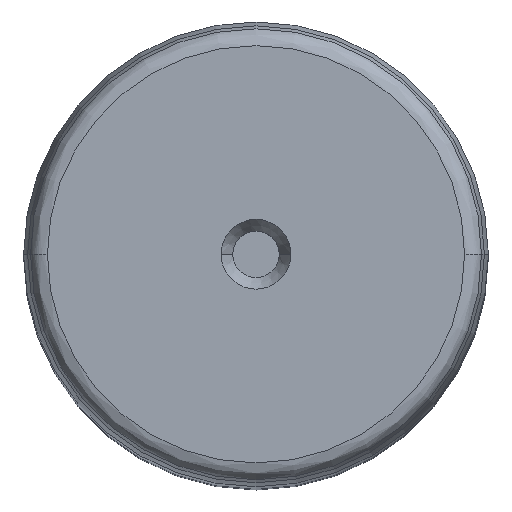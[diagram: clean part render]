
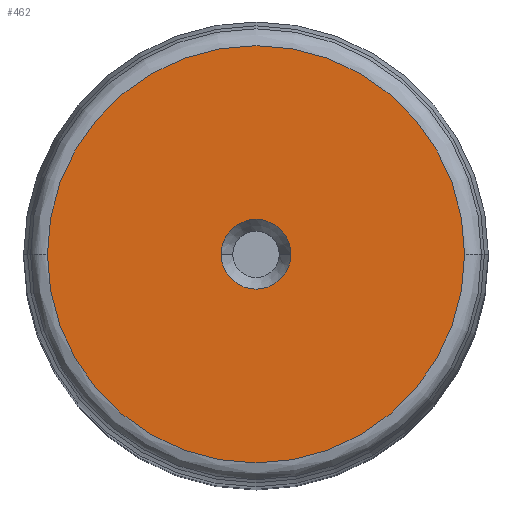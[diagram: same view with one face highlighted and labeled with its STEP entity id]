
A CAD part, top view. The second image highlights one B-rep face of the part: STEP entity #462.
In plain terms, the highlighted planar face has unit normal (0, 0, 1).
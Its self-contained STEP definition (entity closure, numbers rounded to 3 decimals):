
#97=VERTEX_POINT(' ',#98);
#98=CARTESIAN_POINT('',(-9.,0.,500.));
#99=VERTEX_POINT(' ',#100);
#100=CARTESIAN_POINT('',(9.,0.,500.));
#101=VERTEX_POINT(' ',#102);
#102=CARTESIAN_POINT('',(-53.868,0.,500.));
#103=VERTEX_POINT(' ',#104);
#104=CARTESIAN_POINT('',(53.868,0.,500.));
#180=CIRCLE('',#181,9.);
#181=AXIS2_PLACEMENT_3D('',#182,#183,#184);
#182=CARTESIAN_POINT('',(0.,0.,500.));
#183=DIRECTION('',(0.,0.,-1.));
#184=DIRECTION('',(0.,1.,0.));
#185=EDGE_CURVE(' ',#99,#97,#180,.T.);
#191=CIRCLE('',#192,9.);
#192=AXIS2_PLACEMENT_3D('',#193,#194,#195);
#193=CARTESIAN_POINT('',(0.,0.,500.));
#194=DIRECTION('',(0.,0.,-1.));
#195=DIRECTION('',(0.,-1.,0.));
#196=EDGE_CURVE(' ',#97,#99,#191,.T.);
#197=CIRCLE('',#198,53.868);
#198=AXIS2_PLACEMENT_3D('',#199,#200,#201);
#199=CARTESIAN_POINT('',(0.,0.,500.));
#200=DIRECTION('',(0.,0.,-1.));
#201=DIRECTION('',(0.,1.,0.));
#202=EDGE_CURVE(' ',#103,#101,#197,.T.);
#203=CIRCLE('',#204,53.868);
#204=AXIS2_PLACEMENT_3D('',#205,#206,#207);
#205=CARTESIAN_POINT('',(0.,0.,500.));
#206=DIRECTION('',(0.,0.,-1.));
#207=DIRECTION('',(0.,-1.,0.));
#208=EDGE_CURVE(' ',#101,#103,#203,.T.);
#449=ORIENTED_EDGE('',*,*,#202,.F.);
#450=ORIENTED_EDGE('',*,*,#208,.F.);
#451=EDGE_LOOP('',(#449,#450));
#452=FACE_OUTER_BOUND('',#451,.T.);
#453=ORIENTED_EDGE('',*,*,#196,.T.);
#454=ORIENTED_EDGE('',*,*,#185,.T.);
#455=EDGE_LOOP('',(#453,#454));
#456=FACE_BOUND('',#455,.T.);
#457=PLANE('',#458);
#458=AXIS2_PLACEMENT_3D('',#459,#460,#461);
#459=CARTESIAN_POINT('',(0.,0.,500.));
#460=DIRECTION('',(0.,0.,1.));
#461=DIRECTION('',(0.,1.,0.));
#462=ADVANCED_FACE('',(#452,#456),#457,.T.);
